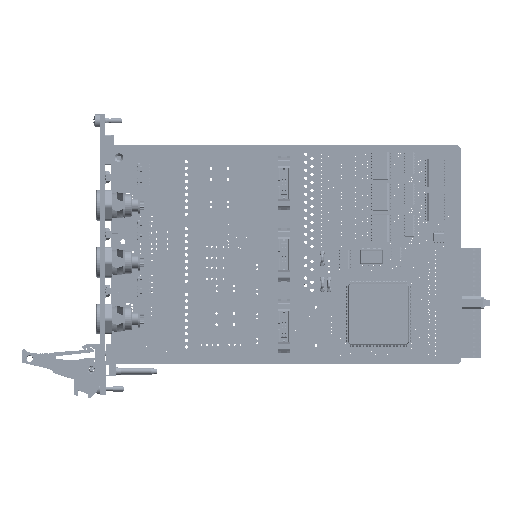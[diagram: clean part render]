
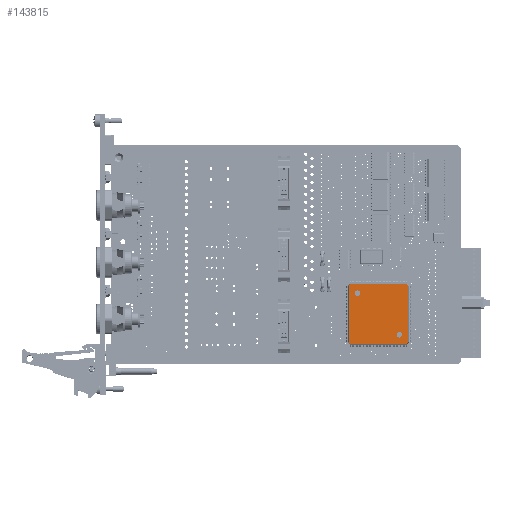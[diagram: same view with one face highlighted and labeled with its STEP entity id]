
A CAD part, top view. The second image highlights one B-rep face of the part: STEP entity #143815.
In plain terms, the highlighted planar face has unit normal (0, 0, 1) as drawn and (0, 1, 0) by its records, which use the part's own axes.
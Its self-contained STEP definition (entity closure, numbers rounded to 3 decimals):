
#537 = CARTESIAN_POINT ( 'NONE',  ( 9.544, 1.7, -8.294 ) ) ;
#1229 = DIRECTION ( 'NONE',  ( 0.707, 0., 0.707 ) ) ;
#1427 = DIRECTION ( 'NONE',  ( 0.707, 0., -0.707 ) ) ;
#10861 = FACE_BOUND ( 'NONE', #338289, .T. ) ;
#15085 = EDGE_CURVE ( 'NONE', #51337, #110503, #380846, .T. ) ;
#33529 = CIRCLE ( 'NONE', #322677, 1.249 ) ;
#36755 = EDGE_CURVE ( 'NONE', #70445, #280666, #60159, .T. ) ;
#38271 = DIRECTION ( 'NONE',  ( -1., 0., 0. ) ) ;
#38834 = CARTESIAN_POINT ( 'NONE',  ( 13.544, 1.7, 13. ) ) ;
#51337 = VERTEX_POINT ( 'NONE', #54453 ) ;
#52171 = AXIS2_PLACEMENT_3D ( 'NONE', #409129, #54827, #212600 ) ;
#54453 = CARTESIAN_POINT ( 'NONE',  ( 9.544, 1.7, -10.794 ) ) ;
#54827 = DIRECTION ( 'NONE',  ( 0., 1., 0. ) ) ;
#55401 = DIRECTION ( 'NONE',  ( -0.707, 0., 0.707 ) ) ;
#56548 = EDGE_LOOP ( 'NONE', ( #466306, #452821, #477449, #360039, #217385, #232386, #398171, #80115 ) ) ;
#60159 = LINE ( 'NONE', #217899, #458685 ) ;
#70445 = VERTEX_POINT ( 'NONE', #219088 ) ;
#75772 = CARTESIAN_POINT ( 'NONE',  ( 9.544, 1.7, -9.544 ) ) ;
#80115 = ORIENTED_EDGE ( 'NONE', *, *, #467064, .T. ) ;
#89624 = DIRECTION ( 'NONE',  ( 0., 0., -1. ) ) ;
#93106 = CARTESIAN_POINT ( 'NONE',  ( 12.811, 1.7, 13.544 ) ) ;
#95484 = ORIENTED_EDGE ( 'NONE', *, *, #15085, .T. ) ;
#101002 = DIRECTION ( 'NONE',  ( 1., 0., 0. ) ) ;
#108759 = VECTOR ( 'NONE', #1427, 1000. ) ;
#110503 = VERTEX_POINT ( 'NONE', #537 ) ;
#123384 = LINE ( 'NONE', #281122, #461342 ) ;
#127847 = CARTESIAN_POINT ( 'NONE',  ( -9.544, 1.7, 9.544 ) ) ;
#130765 = CARTESIAN_POINT ( 'NONE',  ( 12.811, 1.7, -13.544 ) ) ;
#135520 = VECTOR ( 'NONE', #55401, 1000. ) ;
#135764 = DIRECTION ( 'NONE',  ( 0., 0., -1. ) ) ;
#143815 = ADVANCED_FACE ( 'NONE', ( #10861, #168662, #326461 ), #484161, .T. ) ;
#157974 = AXIS2_PLACEMENT_3D ( 'NONE', #279161, #436962, #89624 ) ;
#160508 = EDGE_LOOP ( 'NONE', ( #438438, #95484 ) ) ;
#165567 = VECTOR ( 'NONE', #196563, 1000. ) ;
#168662 = FACE_OUTER_BOUND ( 'NONE', #56548, .T. ) ;
#169985 = ORIENTED_EDGE ( 'NONE', *, *, #204307, .T. ) ;
#187730 = CIRCLE ( 'NONE', #476773, 1.25 ) ;
#196563 = DIRECTION ( 'NONE',  ( 0., 0., -1. ) ) ;
#197828 = LINE ( 'NONE', #355594, #457680 ) ;
#198040 = LINE ( 'NONE', #355777, #108759 ) ;
#204307 = EDGE_CURVE ( 'NONE', #281499, #408918, #494060, .T. ) ;
#211848 = CARTESIAN_POINT ( 'NONE',  ( -9.544, 1.7, 8.296 ) ) ;
#212600 = DIRECTION ( 'NONE',  ( 0., 0., 1. ) ) ;
#214703 = CARTESIAN_POINT ( 'NONE',  ( -12.811, 1.7, -13.544 ) ) ;
#217385 = ORIENTED_EDGE ( 'NONE', *, *, #232971, .T. ) ;
#217899 = CARTESIAN_POINT ( 'NONE',  ( -13.544, 1.7, 13. ) ) ;
#219088 = CARTESIAN_POINT ( 'NONE',  ( -13.544, 1.7, -12.811 ) ) ;
#229492 = VERTEX_POINT ( 'NONE', #267975 ) ;
#232386 = ORIENTED_EDGE ( 'NONE', *, *, #270846, .T. ) ;
#232971 = EDGE_CURVE ( 'NONE', #280666, #229492, #197828, .T. ) ;
#233510 = DIRECTION ( 'NONE',  ( 0., -1., 0. ) ) ;
#234789 = LINE ( 'NONE', #392536, #236638 ) ;
#236638 = VECTOR ( 'NONE', #38271, 1000. ) ;
#251883 = LINE ( 'NONE', #409703, #135520 ) ;
#254955 = EDGE_CURVE ( 'NONE', #463912, #413340, #198040, .T. ) ;
#267975 = CARTESIAN_POINT ( 'NONE',  ( -12.811, 1.7, 13.544 ) ) ;
#270846 = EDGE_CURVE ( 'NONE', #229492, #463912, #297468, .T. ) ;
#271046 = AXIS2_PLACEMENT_3D ( 'NONE', #332225, #489996, #135764 ) ;
#276668 = EDGE_CURVE ( 'NONE', #110503, #51337, #187730, .T. ) ;
#279161 = CARTESIAN_POINT ( 'NONE',  ( 9.544, 1.7, -9.544 ) ) ;
#280666 = VERTEX_POINT ( 'NONE', #318889 ) ;
#281122 = CARTESIAN_POINT ( 'NONE',  ( 12.678, 1.7, -13.678 ) ) ;
#281499 = VERTEX_POINT ( 'NONE', #332691 ) ;
#285513 = DIRECTION ( 'NONE',  ( 0., -1., 0. ) ) ;
#292508 = VERTEX_POINT ( 'NONE', #130765 ) ;
#297468 = LINE ( 'NONE', #455233, #323714 ) ;
#318889 = CARTESIAN_POINT ( 'NONE',  ( -13.544, 1.7, 12.811 ) ) ;
#319119 = VERTEX_POINT ( 'NONE', #214703 ) ;
#322677 = AXIS2_PLACEMENT_3D ( 'NONE', #127847, #285513, #443308 ) ;
#323714 = VECTOR ( 'NONE', #101002, 1000. ) ;
#326461 = FACE_BOUND ( 'NONE', #160508, .T. ) ;
#332225 = CARTESIAN_POINT ( 'NONE',  ( -9.544, 1.7, 9.544 ) ) ;
#332691 = CARTESIAN_POINT ( 'NONE',  ( -9.544, 1.7, 10.793 ) ) ;
#338289 = EDGE_LOOP ( 'NONE', ( #169985, #490893 ) ) ;
#355594 = CARTESIAN_POINT ( 'NONE',  ( -12.678, 1.7, 13.678 ) ) ;
#355777 = CARTESIAN_POINT ( 'NONE',  ( 12.678, 1.7, 13.678 ) ) ;
#360039 = ORIENTED_EDGE ( 'NONE', *, *, #36755, .T. ) ;
#371581 = CARTESIAN_POINT ( 'NONE',  ( 13.544, 1.7, -12.811 ) ) ;
#375567 = DIRECTION ( 'NONE',  ( 0., 0., 1. ) ) ;
#377681 = EDGE_CURVE ( 'NONE', #391363, #292508, #123384, .T. ) ;
#380846 = CIRCLE ( 'NONE', #157974, 1.25 ) ;
#391232 = DIRECTION ( 'NONE',  ( 0., 0., -1. ) ) ;
#391363 = VERTEX_POINT ( 'NONE', #371581 ) ;
#392536 = CARTESIAN_POINT ( 'NONE',  ( -13., 1.7, -13.544 ) ) ;
#393114 = LINE ( 'NONE', #38834, #165567 ) ;
#398171 = ORIENTED_EDGE ( 'NONE', *, *, #254955, .T. ) ;
#408918 = VERTEX_POINT ( 'NONE', #211848 ) ;
#409129 = CARTESIAN_POINT ( 'NONE',  ( 27., 1.7, 0. ) ) ;
#409703 = CARTESIAN_POINT ( 'NONE',  ( -12.678, 1.7, -13.678 ) ) ;
#413340 = VERTEX_POINT ( 'NONE', #428358 ) ;
#428358 = CARTESIAN_POINT ( 'NONE',  ( 13.544, 1.7, 12.811 ) ) ;
#436962 = DIRECTION ( 'NONE',  ( 0., -1., 0. ) ) ;
#438438 = ORIENTED_EDGE ( 'NONE', *, *, #276668, .T. ) ;
#438927 = DIRECTION ( 'NONE',  ( -0.707, 0., -0.707 ) ) ;
#443308 = DIRECTION ( 'NONE',  ( 0., 0., -1. ) ) ;
#452821 = ORIENTED_EDGE ( 'NONE', *, *, #498012, .T. ) ;
#455233 = CARTESIAN_POINT ( 'NONE',  ( -13., 1.7, 13.544 ) ) ;
#457680 = VECTOR ( 'NONE', #1229, 1000. ) ;
#458685 = VECTOR ( 'NONE', #375567, 1000. ) ;
#461342 = VECTOR ( 'NONE', #438927, 1000. ) ;
#463912 = VERTEX_POINT ( 'NONE', #93106 ) ;
#466306 = ORIENTED_EDGE ( 'NONE', *, *, #377681, .T. ) ;
#467064 = EDGE_CURVE ( 'NONE', #413340, #391363, #393114, .T. ) ;
#476773 = AXIS2_PLACEMENT_3D ( 'NONE', #75772, #233510, #391232 ) ;
#477449 = ORIENTED_EDGE ( 'NONE', *, *, #510871, .T. ) ;
#484161 = PLANE ( 'NONE',  #52171 ) ;
#485102 = EDGE_CURVE ( 'NONE', #408918, #281499, #33529, .T. ) ;
#489996 = DIRECTION ( 'NONE',  ( 0., -1., 0. ) ) ;
#490893 = ORIENTED_EDGE ( 'NONE', *, *, #485102, .T. ) ;
#494060 = CIRCLE ( 'NONE', #271046, 1.249 ) ;
#498012 = EDGE_CURVE ( 'NONE', #292508, #319119, #234789, .T. ) ;
#510871 = EDGE_CURVE ( 'NONE', #319119, #70445, #251883, .T. ) ;
